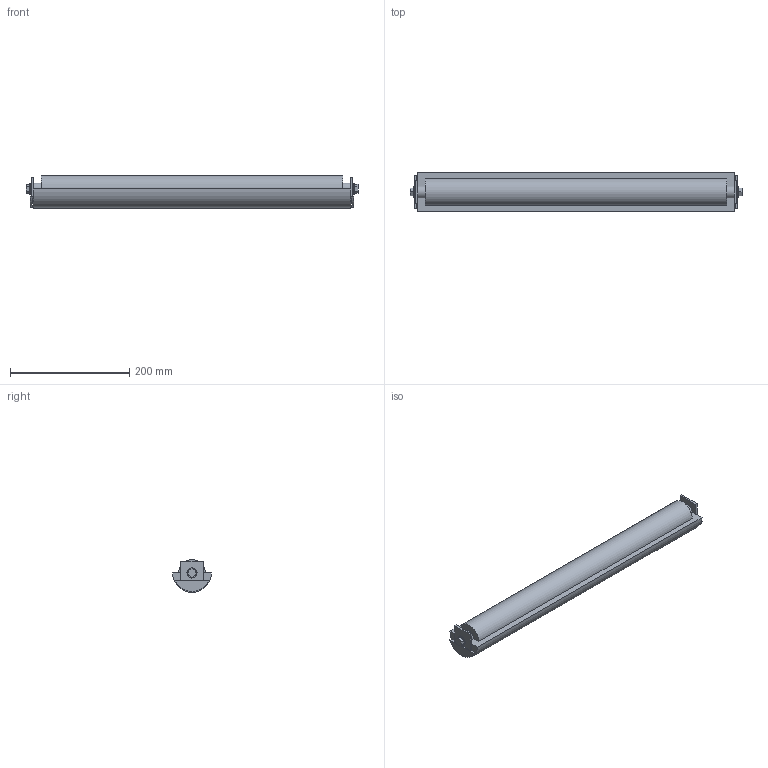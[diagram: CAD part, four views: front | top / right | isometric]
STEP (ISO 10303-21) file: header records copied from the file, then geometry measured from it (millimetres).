
FILE_DESCRIPTION (( 'STEP AP214' ), '1' );
FILE_NAME ('03.102I01.550.N FS-550-MTS2-100.INOX Idler section.STEP', '2025-02-11T11:27:51', ( '' ), ( '' ), 'SwSTEP 2.0', 'SolidWorks 2024', '' );
FILE_SCHEMA (( 'AUTOMOTIVE_DESIGN' ));
Length unit declared in the file: millimetre
Products named in the file (1): 03.102I01.550.N FS-550-MTS2-100.INOX Idler section
Bounding box: 557.8 x 65.4 x 55.2 mm (x, y, z)
Volume: 1320102.9 mm3; surface area: 115368 mm2
Topology: 1 solids, 1 shells, 64 faces, 164 edges, 108 vertices
Faces by surface type: plane 40, cylinder 24
Entity records: 1967 total; most frequent: DIRECTION 342, CARTESIAN_POINT 337, ORIENTED_EDGE 328, EDGE_CURVE 164, VECTOR 116, LINE 116, AXIS2_PLACEMENT_3D 113, VERTEX_POINT 108
